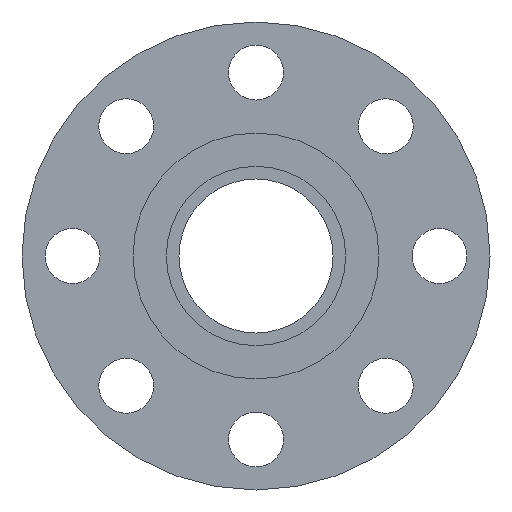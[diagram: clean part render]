
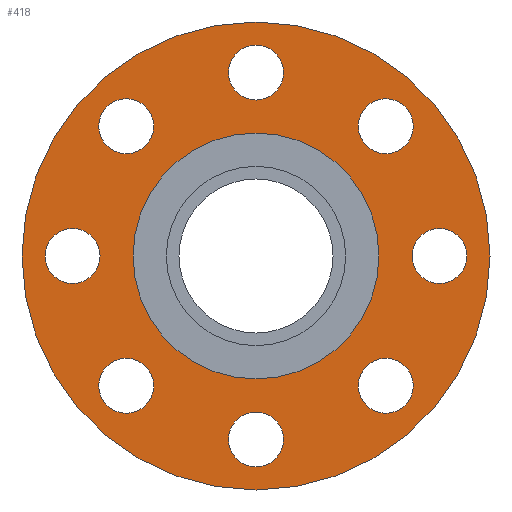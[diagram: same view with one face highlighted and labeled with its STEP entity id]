
A CAD part, left-side view. The second image highlights one B-rep face of the part: STEP entity #418.
In plain terms, the highlighted planar face has unit normal (-1, 0, 0).
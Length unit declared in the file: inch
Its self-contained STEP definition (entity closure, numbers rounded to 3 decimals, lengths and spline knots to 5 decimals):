
#14=FACE_BOUND('',#72,.T.);
#15=FACE_BOUND('',#73,.T.);
#16=FACE_BOUND('',#74,.T.);
#17=FACE_BOUND('',#75,.T.);
#18=FACE_BOUND('',#76,.T.);
#19=FACE_BOUND('',#77,.T.);
#20=FACE_BOUND('',#78,.T.);
#21=FACE_BOUND('',#79,.T.);
#22=FACE_BOUND('',#80,.T.);
#36=PLANE('',#478);
#51=FACE_OUTER_BOUND('',#71,.T.);
#71=EDGE_LOOP('',(#304,#305));
#72=EDGE_LOOP('',(#306));
#73=EDGE_LOOP('',(#307));
#74=EDGE_LOOP('',(#308));
#75=EDGE_LOOP('',(#309));
#76=EDGE_LOOP('',(#310));
#77=EDGE_LOOP('',(#311));
#78=EDGE_LOOP('',(#312));
#79=EDGE_LOOP('',(#313));
#80=EDGE_LOOP('',(#314,#315));
#133=CIRCLE('',#451,0.44);
#135=CIRCLE('',#454,0.44);
#137=CIRCLE('',#457,0.44);
#139=CIRCLE('',#460,0.44);
#141=CIRCLE('',#463,0.44);
#143=CIRCLE('',#466,0.44);
#145=CIRCLE('',#469,0.44);
#147=CIRCLE('',#472,0.44);
#148=CIRCLE('',#474,3.75);
#149=CIRCLE('',#475,3.75);
#152=CIRCLE('',#479,1.97);
#153=CIRCLE('',#480,1.97);
#173=VERTEX_POINT('',#649);
#175=VERTEX_POINT('',#655);
#177=VERTEX_POINT('',#661);
#179=VERTEX_POINT('',#667);
#181=VERTEX_POINT('',#673);
#183=VERTEX_POINT('',#679);
#185=VERTEX_POINT('',#685);
#187=VERTEX_POINT('',#691);
#188=VERTEX_POINT('',#695);
#189=VERTEX_POINT('',#696);
#192=VERTEX_POINT('',#705);
#193=VERTEX_POINT('',#706);
#214=EDGE_CURVE('',#173,#173,#133,.T.);
#217=EDGE_CURVE('',#175,#175,#135,.T.);
#220=EDGE_CURVE('',#177,#177,#137,.T.);
#223=EDGE_CURVE('',#179,#179,#139,.T.);
#226=EDGE_CURVE('',#181,#181,#141,.T.);
#229=EDGE_CURVE('',#183,#183,#143,.T.);
#232=EDGE_CURVE('',#185,#185,#145,.T.);
#235=EDGE_CURVE('',#187,#187,#147,.T.);
#236=EDGE_CURVE('',#188,#189,#148,.T.);
#237=EDGE_CURVE('',#189,#188,#149,.T.);
#241=EDGE_CURVE('',#192,#193,#152,.T.);
#242=EDGE_CURVE('',#193,#192,#153,.T.);
#304=ORIENTED_EDGE('',*,*,#236,.T.);
#305=ORIENTED_EDGE('',*,*,#237,.T.);
#306=ORIENTED_EDGE('',*,*,#214,.T.);
#307=ORIENTED_EDGE('',*,*,#217,.T.);
#308=ORIENTED_EDGE('',*,*,#220,.T.);
#309=ORIENTED_EDGE('',*,*,#223,.T.);
#310=ORIENTED_EDGE('',*,*,#226,.T.);
#311=ORIENTED_EDGE('',*,*,#229,.T.);
#312=ORIENTED_EDGE('',*,*,#232,.T.);
#313=ORIENTED_EDGE('',*,*,#235,.T.);
#314=ORIENTED_EDGE('',*,*,#241,.F.);
#315=ORIENTED_EDGE('',*,*,#242,.F.);
#418=ADVANCED_FACE('',(#51,#14,#15,#16,#17,#18,#19,#20,#21,#22),#36,.T.);
#451=AXIS2_PLACEMENT_3D('',#651,#516,#517);
#454=AXIS2_PLACEMENT_3D('',#657,#523,#524);
#457=AXIS2_PLACEMENT_3D('',#663,#530,#531);
#460=AXIS2_PLACEMENT_3D('',#669,#537,#538);
#463=AXIS2_PLACEMENT_3D('',#675,#544,#545);
#466=AXIS2_PLACEMENT_3D('',#681,#551,#552);
#469=AXIS2_PLACEMENT_3D('',#687,#558,#559);
#472=AXIS2_PLACEMENT_3D('',#693,#565,#566);
#474=AXIS2_PLACEMENT_3D('',#697,#569,#570);
#475=AXIS2_PLACEMENT_3D('',#698,#571,#572);
#478=AXIS2_PLACEMENT_3D('',#704,#578,#579);
#479=AXIS2_PLACEMENT_3D('',#707,#580,#581);
#480=AXIS2_PLACEMENT_3D('',#708,#582,#583);
#516=DIRECTION('center_axis',(1.,0.,0.));
#517=DIRECTION('ref_axis',(0.,-0.707,0.707));
#523=DIRECTION('center_axis',(1.,0.,0.));
#524=DIRECTION('ref_axis',(0.,-1.,0.));
#530=DIRECTION('center_axis',(1.,0.,0.));
#531=DIRECTION('ref_axis',(0.,-0.707,-0.707));
#537=DIRECTION('center_axis',(1.,0.,0.));
#538=DIRECTION('ref_axis',(0.,0.,-1.));
#544=DIRECTION('center_axis',(1.,0.,0.));
#545=DIRECTION('ref_axis',(0.,0.707,-0.707));
#551=DIRECTION('center_axis',(1.,0.,0.));
#552=DIRECTION('ref_axis',(0.,1.,0.));
#558=DIRECTION('center_axis',(1.,0.,0.));
#559=DIRECTION('ref_axis',(0.,0.707,0.707));
#565=DIRECTION('center_axis',(1.,0.,0.));
#566=DIRECTION('ref_axis',(0.,0.,1.));
#569=DIRECTION('center_axis',(-1.,0.,0.));
#570=DIRECTION('ref_axis',(0.,0.,1.));
#571=DIRECTION('center_axis',(-1.,0.,0.));
#572=DIRECTION('ref_axis',(0.,0.,1.));
#578=DIRECTION('center_axis',(-1.,0.,0.));
#579=DIRECTION('ref_axis',(0.,0.,1.));
#580=DIRECTION('center_axis',(-1.,0.,0.));
#581=DIRECTION('ref_axis',(0.,0.,1.));
#582=DIRECTION('center_axis',(-1.,0.,0.));
#583=DIRECTION('ref_axis',(0.,0.,1.));
#649=CARTESIAN_POINT('',(-1.,2.39002,-2.39002));
#651=CARTESIAN_POINT('Origin',(-1.,2.07889,-2.07889));
#655=CARTESIAN_POINT('',(-1.,3.38,0.));
#657=CARTESIAN_POINT('Origin',(-1.,2.94,0.));
#661=CARTESIAN_POINT('',(-1.,2.39002,2.39002));
#663=CARTESIAN_POINT('Origin',(-1.,2.07889,2.07889));
#667=CARTESIAN_POINT('',(-1.,0.,3.38));
#669=CARTESIAN_POINT('Origin',(-1.,0.,2.94));
#673=CARTESIAN_POINT('',(-1.,-2.39002,2.39002));
#675=CARTESIAN_POINT('Origin',(-1.,-2.07889,2.07889));
#679=CARTESIAN_POINT('',(-1.,-3.38,0.));
#681=CARTESIAN_POINT('Origin',(-1.,-2.94,0.));
#685=CARTESIAN_POINT('',(-1.,-2.39002,-2.39002));
#687=CARTESIAN_POINT('Origin',(-1.,-2.07889,-2.07889));
#691=CARTESIAN_POINT('',(-1.,0.,-3.38));
#693=CARTESIAN_POINT('Origin',(-1.,0.,-2.94));
#695=CARTESIAN_POINT('',(-1.,0.,3.75));
#696=CARTESIAN_POINT('',(-1.,0.,-3.75));
#697=CARTESIAN_POINT('Origin',(-1.,0.,0.));
#698=CARTESIAN_POINT('Origin',(-1.,0.,0.));
#704=CARTESIAN_POINT('Origin',(-1.,0.,2.86));
#705=CARTESIAN_POINT('',(-1.,0.,1.97));
#706=CARTESIAN_POINT('',(-1.,0.,-1.97));
#707=CARTESIAN_POINT('Origin',(-1.,0.,0.));
#708=CARTESIAN_POINT('Origin',(-1.,0.,0.));
